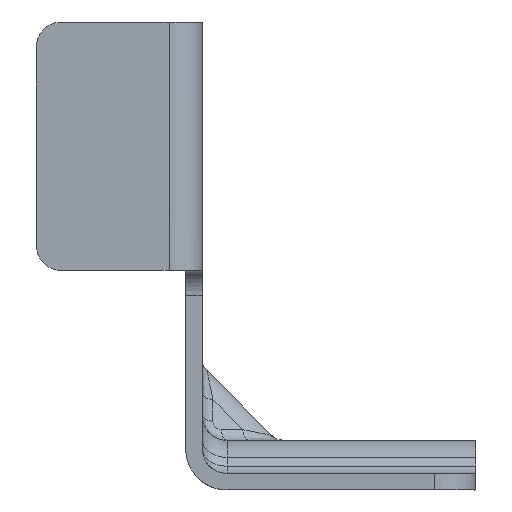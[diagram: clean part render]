
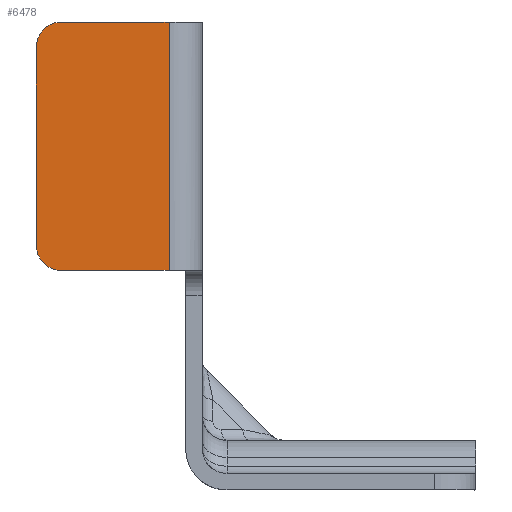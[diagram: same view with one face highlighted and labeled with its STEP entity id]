
A CAD part, front view. The second image highlights one B-rep face of the part: STEP entity #6478.
In plain terms, the highlighted planar face has unit normal (0, -1, 0).
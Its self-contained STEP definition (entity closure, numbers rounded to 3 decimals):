
#6436=AXIS2_PLACEMENT_3D('Circle Axis2P3D',#6434,#6435,$) ;
#6449=AXIS2_PLACEMENT_3D('Plane Axis2P3D',#6446,#6447,#6448) ;
#6460=AXIS2_PLACEMENT_3D('Circle Axis2P3D',#6458,#6459,$) ;
#2638=CARTESIAN_POINT('Vertex',(1458.999,-742.486,76.5)) ;
#2641=CARTESIAN_POINT('Line Origine',(1465.499,-742.486,76.5)) ;
#2645=CARTESIAN_POINT('Vertex',(1471.999,-742.486,76.5)) ;
#2686=CARTESIAN_POINT('Vertex',(1471.999,-742.486,46.5)) ;
#2689=CARTESIAN_POINT('Line Origine',(1471.999,-742.486,49.25)) ;
#6431=CARTESIAN_POINT('Vertex',(1455.999,-742.486,73.5)) ;
#6434=CARTESIAN_POINT('Axis2P3D Location',(1458.999,-742.486,73.5)) ;
#6446=CARTESIAN_POINT('Axis2P3D Location',(1490.999,-742.486,76.5)) ;
#6451=CARTESIAN_POINT('Line Origine',(1455.999,-742.486,61.5)) ;
#6455=CARTESIAN_POINT('Vertex',(1455.999,-742.486,49.5)) ;
#6458=CARTESIAN_POINT('Axis2P3D Location',(1458.999,-742.486,49.5)) ;
#6462=CARTESIAN_POINT('Vertex',(1458.999,-742.486,46.5)) ;
#6465=CARTESIAN_POINT('Line Origine',(1465.499,-742.486,46.5)) ;
#2642=DIRECTION('Vector Direction',(-1.,0.,0.)) ;
#2690=DIRECTION('Vector Direction',(0.,0.,-1.)) ;
#6435=DIRECTION('Axis2P3D Direction',(0.,1.,0.)) ;
#6447=DIRECTION('Axis2P3D Direction',(0.,1.,0.)) ;
#6448=DIRECTION('Axis2P3D XDirection',(0.,0.,-1.)) ;
#6452=DIRECTION('Vector Direction',(0.,0.,-1.)) ;
#6459=DIRECTION('Axis2P3D Direction',(0.,1.,0.)) ;
#6466=DIRECTION('Vector Direction',(1.,0.,0.)) ;
#2643=VECTOR('Line Direction',#2642,1.) ;
#2691=VECTOR('Line Direction',#2690,1.) ;
#6453=VECTOR('Line Direction',#6452,1.) ;
#6467=VECTOR('Line Direction',#6466,1.) ;
#6471=ORIENTED_EDGE('',*,*,#6438,.F.) ;
#6472=ORIENTED_EDGE('',*,*,#6457,.T.) ;
#6473=ORIENTED_EDGE('',*,*,#6464,.F.) ;
#6474=ORIENTED_EDGE('',*,*,#6469,.T.) ;
#6475=ORIENTED_EDGE('',*,*,#2693,.F.) ;
#6476=ORIENTED_EDGE('',*,*,#2647,.T.) ;
#6478=ADVANCED_FACE('\X2\51E04F554F53\X0\.31B',(#6477),#6450,.F.) ;
#6437=CIRCLE('generated circle',#6436,3.) ;
#6461=CIRCLE('generated circle',#6460,3.) ;
#2647=EDGE_CURVE('',#2646,#2639,#2644,.T.) ;
#2693=EDGE_CURVE('',#2646,#2687,#2692,.T.) ;
#6438=EDGE_CURVE('',#6432,#2639,#6437,.T.) ;
#6457=EDGE_CURVE('',#6432,#6456,#6454,.T.) ;
#6464=EDGE_CURVE('',#6463,#6456,#6461,.T.) ;
#6469=EDGE_CURVE('',#6463,#2687,#6468,.T.) ;
#6470=EDGE_LOOP('',(#6471,#6472,#6473,#6474,#6475,#6476)) ;
#6477=FACE_OUTER_BOUND('',#6470,.T.) ;
#2644=LINE('Line',#2641,#2643) ;
#2692=LINE('Line',#2689,#2691) ;
#6454=LINE('Line',#6451,#6453) ;
#6468=LINE('Line',#6465,#6467) ;
#6450=PLANE('Plane',#6449) ;
#2639=VERTEX_POINT('',#2638) ;
#2646=VERTEX_POINT('',#2645) ;
#2687=VERTEX_POINT('',#2686) ;
#6432=VERTEX_POINT('',#6431) ;
#6456=VERTEX_POINT('',#6455) ;
#6463=VERTEX_POINT('',#6462) ;
